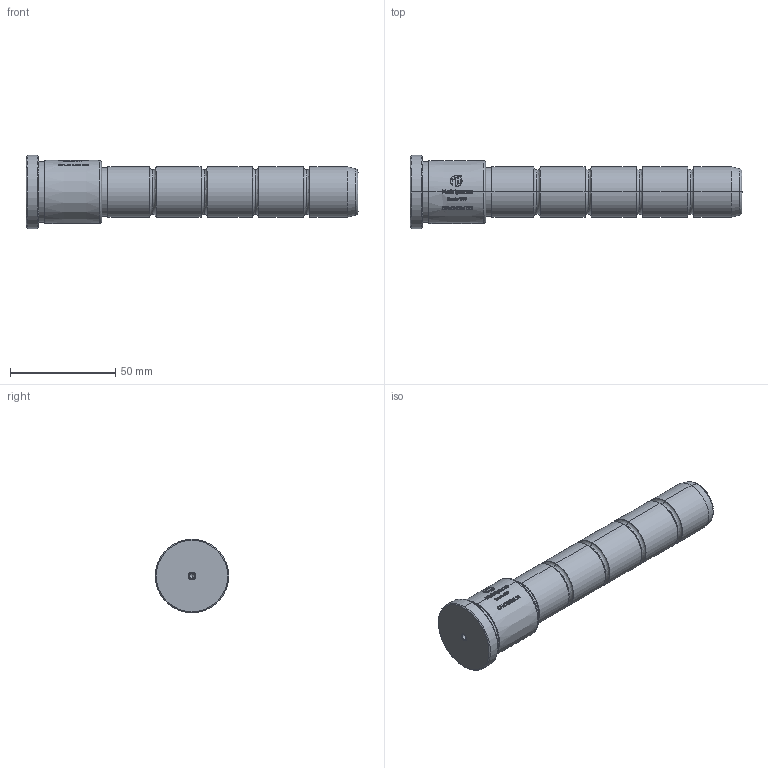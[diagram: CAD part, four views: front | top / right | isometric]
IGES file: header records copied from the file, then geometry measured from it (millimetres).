
Start section: SolidWorks IGES file using analytic representation for surfaces
Global section: file name: C:\Users\User\Downloads\CFM - 09-09\CFM  - Nova\24\CFM24036122.IGS; native system: SolidWorks 2024; preprocessor: SolidWorks 2024; author: User; date: 260910.165117; units: millimetre
Bounding box: 158 x 35 x 35 mm (x, y, z)
Surface area: 15061.6 mm2 (no closed solid volume)
Topology: 0 solids, 0 shells, 515 faces, 5073 edges, 5069 vertices
Faces by surface type: bspline 414, revolution 101
